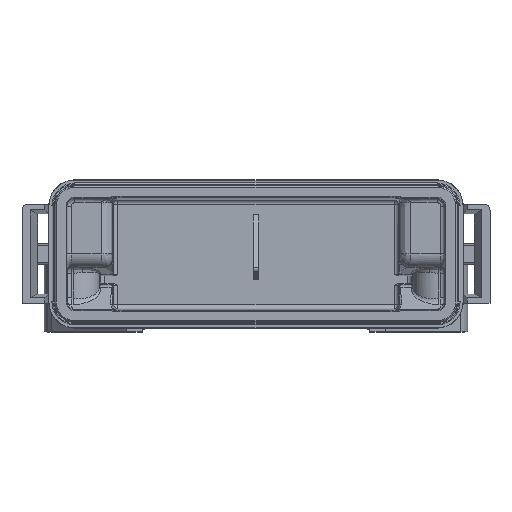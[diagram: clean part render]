
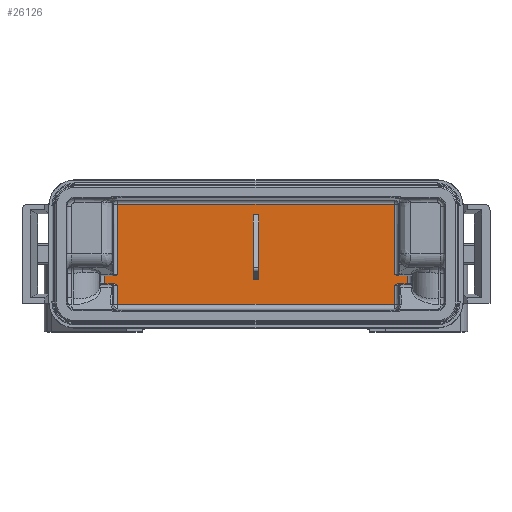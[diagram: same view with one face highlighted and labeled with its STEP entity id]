
A CAD part, top view. The second image highlights one B-rep face of the part: STEP entity #26126.
In plain terms, the highlighted planar face has unit normal (0, 0, 1).
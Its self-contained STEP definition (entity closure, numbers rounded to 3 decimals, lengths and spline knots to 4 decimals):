
#2100=DIRECTION('',(0.,1.,0.));
#2101=VECTOR('',#2100,0.7077);
#2102=CARTESIAN_POINT('',(-0.03,-0.275,-2.613));
#2103=LINE('',#2102,#2101);
#2104=DIRECTION('',(1.,0.,0.));
#2105=VECTOR('',#2104,0.06);
#2106=CARTESIAN_POINT('',(-0.03,-0.275,-2.613));
#2107=LINE('',#2106,#2105);
#2108=DIRECTION('',(0.,1.,0.));
#2109=VECTOR('',#2108,0.7077);
#2110=CARTESIAN_POINT('',(0.03,-0.275,-2.613));
#2111=LINE('',#2110,#2109);
#2112=DIRECTION('',(1.,0.,0.));
#2113=VECTOR('',#2112,0.06);
#2114=CARTESIAN_POINT('',(-0.03,0.4327,-2.613));
#2115=LINE('',#2114,#2113);
#2116=DIRECTION('',(0.,1.,0.));
#2117=VECTOR('',#2116,0.2104);
#2118=CARTESIAN_POINT('',(-1.5124,-0.5493,-2.613));
#2119=LINE('',#2118,#2117);
#2120=DIRECTION('',(0.,1.,0.));
#2121=VECTOR('',#2120,0.09);
#2122=CARTESIAN_POINT('',(-1.6554,-0.324,-2.613));
#2123=LINE('',#2122,#2121);
#2124=DIRECTION('',(0.,1.,0.));
#2125=VECTOR('',#2124,0.7684);
#2126=CARTESIAN_POINT('',(-1.5124,-0.2191,
-2.613));
#2127=LINE('',#2126,#2125);
#2128=DIRECTION('',(1.,0.,0.));
#2129=VECTOR('',#2128,3.0249);
#2130=CARTESIAN_POINT('',(-1.5124,0.5493,-2.613));
#2131=LINE('',#2130,#2129);
#2132=DIRECTION('',(0.,-1.,0.));
#2133=VECTOR('',#2132,0.7684);
#2134=CARTESIAN_POINT('',(1.5124,0.5493,-2.613));
#2135=LINE('',#2134,#2133);
#2136=DIRECTION('',(0.,-1.,0.));
#2137=VECTOR('',#2136,0.09);
#2138=CARTESIAN_POINT('',(1.6554,-0.234,-2.613));
#2139=LINE('',#2138,#2137);
#2140=DIRECTION('',(0.,-1.,0.));
#2141=VECTOR('',#2140,0.2104);
#2142=CARTESIAN_POINT('',(1.5124,-0.3389,
-2.613));
#2143=LINE('',#2142,#2141);
#2144=DIRECTION('',(-1.,0.,0.));
#2145=VECTOR('',#2144,3.0249);
#2146=CARTESIAN_POINT('',(1.5124,-0.5493,-2.613));
#2147=LINE('',#2146,#2145);
#2208=CARTESIAN_POINT('',(-1.5124,-0.3389,
-2.613));
#2234=CARTESIAN_POINT('',(-1.5124,-0.3389,
-2.613));
#2235=CARTESIAN_POINT('',(-1.5148,-0.3376,
-2.613));
#2236=CARTESIAN_POINT('',(-1.5193,-0.3351,
-2.613));
#2237=CARTESIAN_POINT('',(-1.5256,-0.3319,
-2.613));
#2238=CARTESIAN_POINT('',(-1.5314,-0.3292,
-2.613));
#2239=CARTESIAN_POINT('',(-1.5368,-0.3271,
-2.613));
#2240=CARTESIAN_POINT('',(-1.5417,-0.3256,
-2.613));
#2241=CARTESIAN_POINT('',(-1.5462,-0.3246,
-2.613));
#2242=CARTESIAN_POINT('',(-1.5502,-0.3241,
-2.613));
#2243=CARTESIAN_POINT('',(-1.5527,-0.324,
-2.613));
#2244=CARTESIAN_POINT('',(-1.5538,-0.324,
-2.613));
#2746=DIRECTION('',(-1.,0.,0.));
#2747=VECTOR('',#2746,0.1016);
#2748=CARTESIAN_POINT('',(1.6554,-0.234,-2.613));
#2749=LINE('',#2748,#2747);
#2750=CARTESIAN_POINT('',(1.5538,-0.234,-2.613));
#2790=CARTESIAN_POINT('',(-1.5538,-0.234,-2.613));
#2826=DIRECTION('',(-1.,0.,0.));
#2827=VECTOR('',#2826,0.1016);
#2828=CARTESIAN_POINT('',(-1.5538,-0.234,-2.613));
#2829=LINE('',#2828,#2827);
#2834=CARTESIAN_POINT('',(-1.6554,-0.234,-2.613));
#2869=CARTESIAN_POINT('',(1.5124,-0.2191,
-2.613));
#2870=CARTESIAN_POINT('',(1.5148,-0.2204,
-2.613));
#2871=CARTESIAN_POINT('',(1.5193,-0.2229,
-2.613));
#2872=CARTESIAN_POINT('',(1.5256,-0.2261,
-2.613));
#2873=CARTESIAN_POINT('',(1.5314,-0.2288,
-2.613));
#2874=CARTESIAN_POINT('',(1.5368,-0.2308,
-2.613));
#2875=CARTESIAN_POINT('',(1.5417,-0.2324,-2.613));
#2876=CARTESIAN_POINT('',(1.5462,-0.2333,-2.613));
#2877=CARTESIAN_POINT('',(1.5502,-0.2339,-2.613));
#2878=CARTESIAN_POINT('',(1.5527,-0.234,-2.613));
#2879=CARTESIAN_POINT('',(1.5538,-0.234,-2.613));
#2881=CARTESIAN_POINT('',(1.5124,-0.2191,
-2.613));
#3070=CARTESIAN_POINT('',(-1.5124,-0.2191,
-2.613));
#3131=CARTESIAN_POINT('',(-1.5538,-0.234,-2.613));
#3132=CARTESIAN_POINT('',(-1.5525,-0.234,-2.613));
#3133=CARTESIAN_POINT('',(-1.5498,-0.2339,-2.613));
#3134=CARTESIAN_POINT('',(-1.5451,-0.2332,-2.613));
#3135=CARTESIAN_POINT('',(-1.5398,-0.2318,-2.613));
#3136=CARTESIAN_POINT('',(-1.5339,-0.2298,
-2.613));
#3137=CARTESIAN_POINT('',(-1.5274,-0.227,
-2.613));
#3138=CARTESIAN_POINT('',(-1.5203,-0.2234,
-2.613));
#3139=CARTESIAN_POINT('',(-1.5151,-0.2206,
-2.613));
#3140=CARTESIAN_POINT('',(-1.5124,-0.2191,
-2.613));
#3365=CARTESIAN_POINT('',(1.5538,-0.324,
-2.613));
#3379=DIRECTION('',(1.,0.,0.));
#3380=VECTOR('',#3379,0.1016);
#3381=CARTESIAN_POINT('',(1.5538,-0.324,
-2.613));
#3382=LINE('',#3381,#3380);
#3387=CARTESIAN_POINT('',(1.6554,-0.324,-2.613));
#3451=DIRECTION('',(1.,0.,0.));
#3452=VECTOR('',#3451,0.1016);
#3453=CARTESIAN_POINT('',(-1.6554,-0.324,-2.613));
#3454=LINE('',#3453,#3452);
#3455=CARTESIAN_POINT('',(-1.5538,-0.324,
-2.613));
#3526=CARTESIAN_POINT('',(1.5538,-0.324,
-2.613));
#3527=CARTESIAN_POINT('',(1.5527,-0.324,
-2.613));
#3528=CARTESIAN_POINT('',(1.5502,-0.3241,
-2.613));
#3529=CARTESIAN_POINT('',(1.5462,-0.3246,
-2.613));
#3530=CARTESIAN_POINT('',(1.5417,-0.3256,
-2.613));
#3531=CARTESIAN_POINT('',(1.5368,-0.3271,
-2.613));
#3532=CARTESIAN_POINT('',(1.5314,-0.3292,
-2.613));
#3533=CARTESIAN_POINT('',(1.5256,-0.3319,
-2.613));
#3534=CARTESIAN_POINT('',(1.5193,-0.3351,
-2.613));
#3535=CARTESIAN_POINT('',(1.5148,-0.3376,
-2.613));
#3536=CARTESIAN_POINT('',(1.5124,-0.3389,
-2.613));
#3538=CARTESIAN_POINT('',(1.5124,-0.3389,
-2.613));
#19425=CARTESIAN_POINT('',(-1.5124,0.5493,-2.613));
#19426=CARTESIAN_POINT('',(1.5124,0.5493,-2.613));
#19427=VERTEX_POINT('',#19425);
#19428=VERTEX_POINT('',#19426);
#19435=CARTESIAN_POINT('',(1.5124,-0.5493,-2.613));
#19436=CARTESIAN_POINT('',(-1.5124,-0.5493,-2.613));
#19437=VERTEX_POINT('',#19435);
#19438=VERTEX_POINT('',#19436);
#19500=VERTEX_POINT('',#2881);
#19501=VERTEX_POINT('',#2750);
#19519=VERTEX_POINT('',#2790);
#19520=VERTEX_POINT('',#3070);
#19585=CARTESIAN_POINT('',(-0.03,-0.275,-2.613));
#19586=CARTESIAN_POINT('',(-0.03,0.4327,-2.613));
#19587=VERTEX_POINT('',#19585);
#19588=VERTEX_POINT('',#19586);
#19589=CARTESIAN_POINT('',(0.03,-0.275,-2.613));
#19590=CARTESIAN_POINT('',(0.03,0.4327,-2.613));
#19591=VERTEX_POINT('',#19589);
#19592=VERTEX_POINT('',#19590);
#19884=VERTEX_POINT('',#3387);
#19885=CARTESIAN_POINT('',(1.6554,-0.234,-2.613));
#19886=VERTEX_POINT('',#19885);
#19891=VERTEX_POINT('',#2834);
#19892=CARTESIAN_POINT('',(-1.6554,-0.324,-2.613));
#19893=VERTEX_POINT('',#19892);
#19949=VERTEX_POINT('',#3365);
#19950=VERTEX_POINT('',#3538);
#19965=VERTEX_POINT('',#2208);
#19966=VERTEX_POINT('',#3455);
#26079=CARTESIAN_POINT('',(0.,0.,-2.613));
#26080=DIRECTION('',(0.,0.,-1.));
#26081=DIRECTION('',(-1.,0.,0.));
#26082=AXIS2_PLACEMENT_3D('',#26079,#26080,#26081);
#26083=PLANE('',#26082);
#26085=ORIENTED_EDGE('',*,*,#26084,.T.);
#26087=ORIENTED_EDGE('',*,*,#26086,.T.);
#26089=ORIENTED_EDGE('',*,*,#26088,.F.);
#26091=ORIENTED_EDGE('',*,*,#26090,.T.);
#26093=ORIENTED_EDGE('',*,*,#26092,.F.);
#26095=ORIENTED_EDGE('',*,*,#26094,.T.);
#26097=ORIENTED_EDGE('',*,*,#26096,.T.);
#26099=ORIENTED_EDGE('',*,*,#26098,.T.);
#26101=ORIENTED_EDGE('',*,*,#26100,.T.);
#26103=ORIENTED_EDGE('',*,*,#26102,.T.);
#26105=ORIENTED_EDGE('',*,*,#26104,.F.);
#26106=ORIENTED_EDGE('',*,*,#25117,.T.);
#26108=ORIENTED_EDGE('',*,*,#26107,.F.);
#26110=ORIENTED_EDGE('',*,*,#26109,.T.);
#26112=ORIENTED_EDGE('',*,*,#26111,.T.);
#26113=ORIENTED_EDGE('',*,*,#26070,.T.);
#26114=EDGE_LOOP('',(#26085,#26087,#26089,#26091,#26093,#26095,#26097,#26099,
#26101,#26103,#26105,#26106,#26108,#26110,#26112,#26113));
#26115=FACE_OUTER_BOUND('',#26114,.F.);
#26117=ORIENTED_EDGE('',*,*,#26116,.F.);
#26119=ORIENTED_EDGE('',*,*,#26118,.T.);
#26121=ORIENTED_EDGE('',*,*,#26120,.T.);
#26123=ORIENTED_EDGE('',*,*,#26122,.F.);
#26124=EDGE_LOOP('',(#26117,#26119,#26121,#26123));
#26125=FACE_BOUND('',#26124,.F.);
#26126=ADVANCED_FACE('',(#26115,#26125),#26083,.F.);
#2245=B_SPLINE_CURVE_WITH_KNOTS('',3,(#2234,#2235,#2236,#2237,#2238,#2239,#2240,
#2241,#2242,#2243,#2244),.UNSPECIFIED.,.F.,.F.,(4,1,1,1,1,1,1,1,4),(0.,
0.125,0.25,0.375,0.5,0.625,0.75,0.875,1.),.UNSPECIFIED.);
#2880=B_SPLINE_CURVE_WITH_KNOTS('',3,(#2869,#2870,#2871,#2872,#2873,#2874,#2875,
#2876,#2877,#2878,#2879),.UNSPECIFIED.,.F.,.F.,(4,1,1,1,1,1,1,1,4),(0.,
0.125,0.25,0.375,0.5,0.625,0.75,0.875,1.),.UNSPECIFIED.);
#3141=B_SPLINE_CURVE_WITH_KNOTS('',3,(#3131,#3132,#3133,#3134,#3135,#3136,#3137,
#3138,#3139,#3140),.UNSPECIFIED.,.F.,.F.,(4,1,1,1,1,1,1,4),(0.,
0.1429,0.2857,0.4286,0.5714,
0.7143,0.8571,1.),.UNSPECIFIED.);
#3537=B_SPLINE_CURVE_WITH_KNOTS('',3,(#3526,#3527,#3528,#3529,#3530,#3531,#3532,
#3533,#3534,#3535,#3536),.UNSPECIFIED.,.F.,.F.,(4,1,1,1,1,1,1,1,4),(0.,
0.125,0.25,0.375,0.5,0.625,0.75,0.875,1.),.UNSPECIFIED.);
#25117=EDGE_CURVE('',#19886,#19884,#2139,.T.);
#26070=EDGE_CURVE('',#19437,#19438,#2147,.T.);
#26084=EDGE_CURVE('',#19438,#19965,#2119,.T.);
#26086=EDGE_CURVE('',#19965,#19966,#2245,.T.);
#26088=EDGE_CURVE('',#19893,#19966,#3454,.T.);
#26090=EDGE_CURVE('',#19893,#19891,#2123,.T.);
#26092=EDGE_CURVE('',#19519,#19891,#2829,.T.);
#26094=EDGE_CURVE('',#19519,#19520,#3141,.T.);
#26096=EDGE_CURVE('',#19520,#19427,#2127,.T.);
#26098=EDGE_CURVE('',#19427,#19428,#2131,.T.);
#26100=EDGE_CURVE('',#19428,#19500,#2135,.T.);
#26102=EDGE_CURVE('',#19500,#19501,#2880,.T.);
#26104=EDGE_CURVE('',#19886,#19501,#2749,.T.);
#26107=EDGE_CURVE('',#19949,#19884,#3382,.T.);
#26109=EDGE_CURVE('',#19949,#19950,#3537,.T.);
#26111=EDGE_CURVE('',#19950,#19437,#2143,.T.);
#26116=EDGE_CURVE('',#19587,#19588,#2103,.T.);
#26118=EDGE_CURVE('',#19587,#19591,#2107,.T.);
#26120=EDGE_CURVE('',#19591,#19592,#2111,.T.);
#26122=EDGE_CURVE('',#19588,#19592,#2115,.T.);
